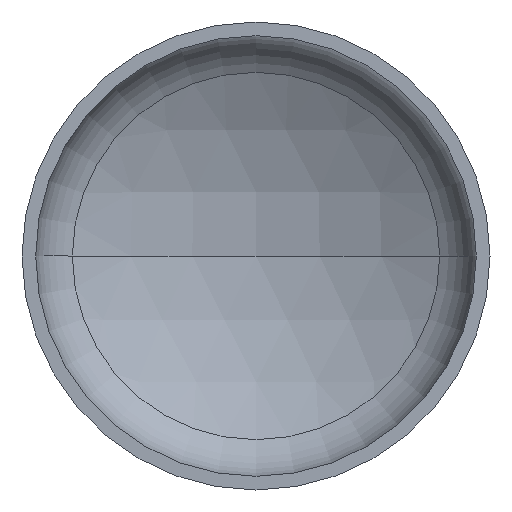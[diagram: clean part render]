
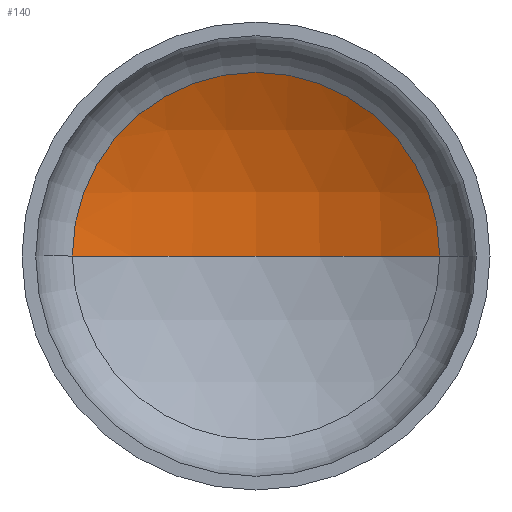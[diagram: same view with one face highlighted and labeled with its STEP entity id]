
A CAD part, front view. The second image highlights one B-rep face of the part: STEP entity #140.
In plain terms, the highlighted spherical face has radius 1120 mm.
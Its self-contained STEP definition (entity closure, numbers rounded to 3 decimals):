
#2 = DIRECTION ( 'NONE',  ( 0., 0., -1. ) ) ;
#6 = AXIS2_PLACEMENT_3D ( 'NONE', #268, #60, #338 ) ;
#19 = EDGE_LOOP ( 'NONE', ( #69, #120, #29 ) ) ;
#29 = ORIENTED_EDGE ( 'NONE', *, *, #139, .T. ) ;
#33 = AXIS2_PLACEMENT_3D ( 'NONE', #111, #2, #162 ) ;
#34 = AXIS2_PLACEMENT_3D ( 'NONE', #274, #270, #269 ) ;
#38 = AXIS2_PLACEMENT_3D ( 'NONE', #332, #359, #205 ) ;
#60 = DIRECTION ( 'NONE',  ( 0., 0., 1. ) ) ;
#62 = VERTEX_POINT ( 'NONE', #225 ) ;
#69 = ORIENTED_EDGE ( 'NONE', *, *, #370, .F. ) ;
#73 = CIRCLE ( 'NONE', #34, 1120. ) ;
#111 = CARTESIAN_POINT ( 'NONE',  ( 0., -658.599, 0. ) ) ;
#119 = CIRCLE ( 'NONE', #6, 1120. ) ;
#120 = ORIENTED_EDGE ( 'NONE', *, *, #163, .T. ) ;
#129 = CARTESIAN_POINT ( 'NONE',  ( 549.481, 317.347, 0. ) ) ;
#139 = EDGE_CURVE ( 'NONE', #356, #62, #266, .T. ) ;
#140 = ADVANCED_FACE ( 'NONE', ( #325 ), #259, .F. ) ;
#162 = DIRECTION ( 'NONE',  ( -1., 0., 0. ) ) ;
#163 = EDGE_CURVE ( 'NONE', #166, #356, #73, .T. ) ;
#166 = VERTEX_POINT ( 'NONE', #255 ) ;
#205 = DIRECTION ( 'NONE',  ( 1., 0., 0. ) ) ;
#225 = CARTESIAN_POINT ( 'NONE',  ( -549.481, 317.347, 0. ) ) ;
#255 = CARTESIAN_POINT ( 'NONE',  ( 0., 461.401, 0. ) ) ;
#259 = SPHERICAL_SURFACE ( 'NONE', #33, 1120. ) ;
#266 = CIRCLE ( 'NONE', #38, 549.481 ) ;
#268 = CARTESIAN_POINT ( 'NONE',  ( 0., -658.599, 0. ) ) ;
#269 = DIRECTION ( 'NONE',  ( -1., 0., 0. ) ) ;
#270 = DIRECTION ( 'NONE',  ( 0., 0., -1. ) ) ;
#274 = CARTESIAN_POINT ( 'NONE',  ( 0., -658.599, 0. ) ) ;
#325 = FACE_OUTER_BOUND ( 'NONE', #19, .T. ) ;
#332 = CARTESIAN_POINT ( 'NONE',  ( 0., 317.347, 0. ) ) ;
#338 = DIRECTION ( 'NONE',  ( 1., 0., 0. ) ) ;
#356 = VERTEX_POINT ( 'NONE', #129 ) ;
#359 = DIRECTION ( 'NONE',  ( 0., -1., 0. ) ) ;
#370 = EDGE_CURVE ( 'NONE', #166, #62, #119, .T. ) ;
